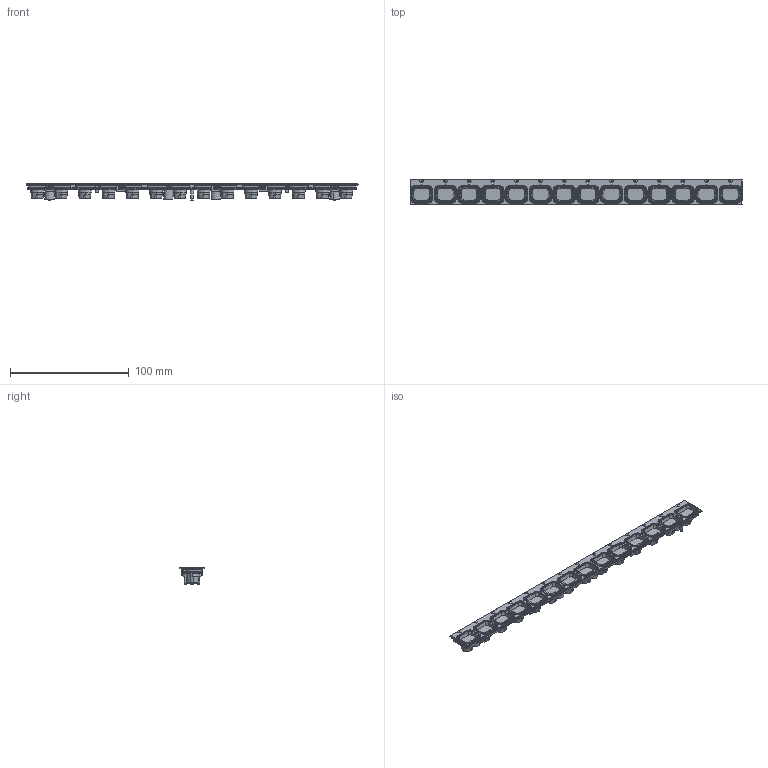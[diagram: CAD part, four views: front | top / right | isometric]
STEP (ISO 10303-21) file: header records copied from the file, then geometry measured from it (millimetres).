
FILE_DESCRIPTION(('STEP AP214'),'1');
FILE_NAME('ANDROMEDA_ASTW MECCANICO.stp','2025-11-04T09:26:20',(' '),(' '),'Spatial InterOp 3D',' ',' ');
FILE_SCHEMA(('AUTOMOTIVE_DESIGN { 1 0 10303 214 1 1 1 1 }'));
Length unit declared in the file: metre
Products named in the file (2): 1762261617; 1762268912
Bounding box: 279.5 x 21 x 14.32 mm (x, y, z)
Volume: 25357.5 mm3; surface area: 28889.8 mm2
Topology: 2 solids, 2 shells, 2940 faces, 7564 edges, 4548 vertices
Faces by surface type: cylinder 1037, plane 846, bspline 398, torus 314, cone 197, sphere 113, extrusion 35
Full cylindrical faces by diameter (mm): 2 x1
Entity records: 155571 total; most frequent: CARTESIAN_POINT 63597, ORIENTED_EDGE 14718, DIRECTION 13911, EDGE_CURVE 7359, AXIS2_PLACEMENT_3D 5221, VERTEX_POINT 4531, VECTOR 3469, LINE 3434
